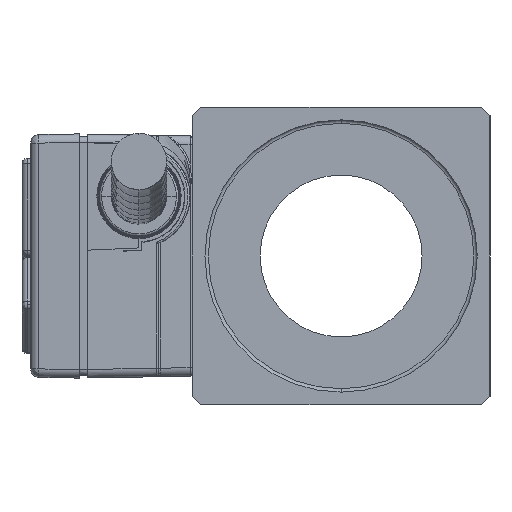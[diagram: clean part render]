
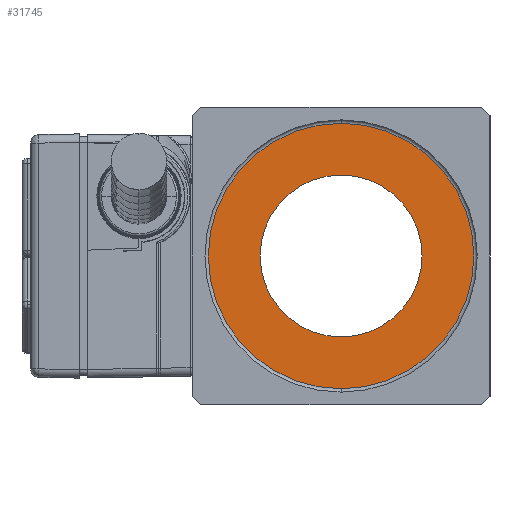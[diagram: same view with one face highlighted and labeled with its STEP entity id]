
A CAD part, left-side view. The second image highlights one B-rep face of the part: STEP entity #31745.
In plain terms, the highlighted planar face has unit normal (-1, 0, 0).
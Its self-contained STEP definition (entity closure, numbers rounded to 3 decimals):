
#870 = CARTESIAN_POINT ( 'NONE',  ( 3., 0., -15.6 ) ) ;
#1241 = DIRECTION ( 'NONE',  ( 1., 0., 0. ) ) ;
#1837 = CARTESIAN_POINT ( 'NONE',  ( 3., 0., 0. ) ) ;
#1920 = AXIS2_PLACEMENT_3D ( 'NONE', #15975, #39058, #19270 ) ;
#3215 = EDGE_CURVE ( 'NONE', #23821, #37509, #33551, .T. ) ;
#3516 = EDGE_CURVE ( 'NONE', #37509, #23821, #40707, .T. ) ;
#4737 = ORIENTED_EDGE ( 'NONE', *, *, #3215, .T. ) ;
#5186 = DIRECTION ( 'NONE',  ( 0., 0., -1. ) ) ;
#5311 = ORIENTED_EDGE ( 'NONE', *, *, #3516, .T. ) ;
#5477 = FACE_OUTER_BOUND ( 'NONE', #8864, .T. ) ;
#7740 = PLANE ( 'NONE',  #36627 ) ;
#8625 = VERTEX_POINT ( 'NONE', #28349 ) ;
#8746 = EDGE_CURVE ( 'NONE', #8625, #27800, #19128, .T. ) ;
#8781 = CARTESIAN_POINT ( 'NONE',  ( 3., 0., 0. ) ) ;
#8864 = EDGE_LOOP ( 'NONE', ( #13779, #32855 ) ) ;
#12123 = DIRECTION ( 'NONE',  ( 0., 0., -1. ) ) ;
#13541 = DIRECTION ( 'NONE',  ( -1., 0., 0. ) ) ;
#13779 = ORIENTED_EDGE ( 'NONE', *, *, #29079, .T. ) ;
#13999 = AXIS2_PLACEMENT_3D ( 'NONE', #8781, #31890, #12123 ) ;
#14024 = CIRCLE ( 'NONE', #1920, 15.6 ) ;
#15975 = CARTESIAN_POINT ( 'NONE',  ( 3., 0., 0. ) ) ;
#19128 = CIRCLE ( 'NONE', #22866, 15.6 ) ;
#19270 = DIRECTION ( 'NONE',  ( 0., 0., -1. ) ) ;
#21011 = CARTESIAN_POINT ( 'NONE',  ( 3., 16., 0. ) ) ;
#22866 = AXIS2_PLACEMENT_3D ( 'NONE', #33274, #13541, #36625 ) ;
#23139 = CARTESIAN_POINT ( 'NONE',  ( 3., 0., -9.515 ) ) ;
#23821 = VERTEX_POINT ( 'NONE', #23139 ) ;
#24047 = FACE_BOUND ( 'NONE', #25073, .T. ) ;
#24316 = DIRECTION ( 'NONE',  ( 0., 0., -1. ) ) ;
#24895 = DIRECTION ( 'NONE',  ( 1., 0., 0. ) ) ;
#25073 = EDGE_LOOP ( 'NONE', ( #4737, #5311 ) ) ;
#27781 = AXIS2_PLACEMENT_3D ( 'NONE', #1837, #24895, #5186 ) ;
#27800 = VERTEX_POINT ( 'NONE', #870 ) ;
#28349 = CARTESIAN_POINT ( 'NONE',  ( 3., 0., 15.6 ) ) ;
#29079 = EDGE_CURVE ( 'NONE', #27800, #8625, #14024, .T. ) ;
#31745 = ADVANCED_FACE ( 'NONE', ( #5477, #24047 ), #7740, .F. ) ;
#31890 = DIRECTION ( 'NONE',  ( 1., 0., 0. ) ) ;
#32855 = ORIENTED_EDGE ( 'NONE', *, *, #8746, .T. ) ;
#33274 = CARTESIAN_POINT ( 'NONE',  ( 3., 0., 0. ) ) ;
#33551 = CIRCLE ( 'NONE', #13999, 9.515 ) ;
#36625 = DIRECTION ( 'NONE',  ( 0., 0., -1. ) ) ;
#36627 = AXIS2_PLACEMENT_3D ( 'NONE', #21011, #1241, #24316 ) ;
#37509 = VERTEX_POINT ( 'NONE', #41323 ) ;
#39058 = DIRECTION ( 'NONE',  ( -1., 0., 0. ) ) ;
#40707 = CIRCLE ( 'NONE', #27781, 9.515 ) ;
#41323 = CARTESIAN_POINT ( 'NONE',  ( 3., 0., 9.515 ) ) ;
